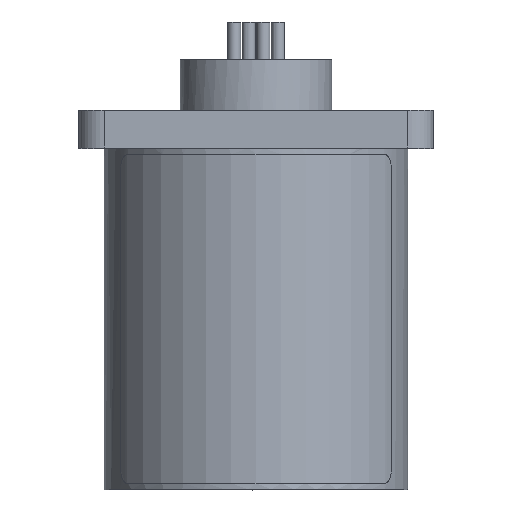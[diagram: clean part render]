
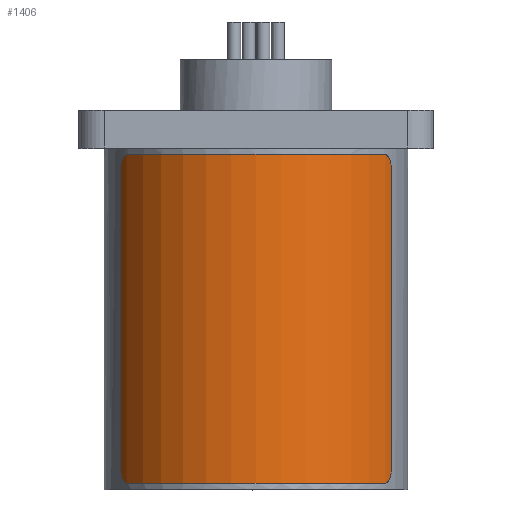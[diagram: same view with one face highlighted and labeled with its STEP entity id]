
A CAD part, top view. The second image highlights one B-rep face of the part: STEP entity #1406.
In plain terms, the highlighted cylindrical face has radius 12.1 mm (diameter 24.2 mm), a partial arc.
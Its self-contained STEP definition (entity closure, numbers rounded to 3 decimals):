
#181=B_SPLINE_CURVE_WITH_KNOTS('',3,(#6909,#6910,#6911,#6912,#6913,#6914,
#6915,#6916,#6917,#6918,#6919,#6920,#6921,#6922,#6923,#6924),
 .UNSPECIFIED.,.F.,.F.,(4,3,3,3,3,4),(0.,0.215,0.429,
0.644,0.858,1.),.UNSPECIFIED.);
#182=B_SPLINE_CURVE_WITH_KNOTS('',3,(#6925,#6926,#6927,#6928,#6929,#6930,
#6931,#6932,#6933,#6934,#6935,#6936,#6937,#6938,#6939,#6940),
 .UNSPECIFIED.,.F.,.F.,(4,3,3,3,3,4),(0.,0.215,0.43,
0.644,0.859,1.),.UNSPECIFIED.);
#183=B_SPLINE_CURVE_WITH_KNOTS('',3,(#6944,#6945,#6946,#6947,#6948,#6949,
#6950,#6951,#6952,#6953,#6954,#6955,#6956,#6957,#6958,#6959),
 .UNSPECIFIED.,.F.,.F.,(4,3,3,3,3,4),(0.,0.215,0.429,
0.644,0.858,1.),.UNSPECIFIED.);
#184=B_SPLINE_CURVE_WITH_KNOTS('',3,(#6963,#6964,#6965,#6966,#6967,#6968,
#6969,#6970,#6971,#6972,#6973,#6974,#6975,#6976,#6977,#6978),
 .UNSPECIFIED.,.F.,.F.,(4,3,3,3,3,4),(0.,0.215,0.43,
0.644,0.859,1.),.UNSPECIFIED.);
#295=FACE_OUTER_BOUND('',#1953,.T.);
#633=LINE('',#6897,#1011);
#637=LINE('',#6961,#1015);
#1011=VECTOR('',#5624,1.);
#1015=VECTOR('',#5634,1.);
#1282=CYLINDRICAL_SURFACE('',#4810,12.1);
#1406=ADVANCED_FACE('',(#295),#1282,.T.);
#1953=EDGE_LOOP('',(#2662,#2663,#2664,#2665,#2666,#2667,#2668,#2669));
#2662=ORIENTED_EDGE('',*,*,#4090,.F.);
#2663=ORIENTED_EDGE('',*,*,#4091,.T.);
#2664=ORIENTED_EDGE('',*,*,#4086,.F.);
#2665=ORIENTED_EDGE('',*,*,#4092,.T.);
#2666=ORIENTED_EDGE('',*,*,#4093,.T.);
#2667=ORIENTED_EDGE('',*,*,#4094,.T.);
#2668=ORIENTED_EDGE('',*,*,#4095,.T.);
#2669=ORIENTED_EDGE('',*,*,#4096,.T.);
#3576=VERTEX_POINT('',#6898);
#3577=VERTEX_POINT('',#6899);
#3580=VERTEX_POINT('',#6907);
#3581=VERTEX_POINT('',#6908);
#3582=VERTEX_POINT('',#6941);
#3583=VERTEX_POINT('',#6943);
#3584=VERTEX_POINT('',#6960);
#3585=VERTEX_POINT('',#6962);
#4086=EDGE_CURVE('',#3576,#3577,#633,.T.);
#4090=EDGE_CURVE('',#3580,#3581,#4492,.T.);
#4091=EDGE_CURVE('',#3580,#3577,#181,.T.);
#4092=EDGE_CURVE('',#3576,#3582,#182,.T.);
#4093=EDGE_CURVE('',#3582,#3583,#4493,.T.);
#4094=EDGE_CURVE('',#3583,#3584,#183,.T.);
#4095=EDGE_CURVE('',#3584,#3585,#637,.T.);
#4096=EDGE_CURVE('',#3585,#3581,#184,.T.);
#4492=CIRCLE('',#4808,12.1);
#4493=CIRCLE('',#4809,12.1);
#4808=AXIS2_PLACEMENT_3D('',#6906,#5630,#5631);
#4809=AXIS2_PLACEMENT_3D('',#6942,#5632,#5633);
#4810=AXIS2_PLACEMENT_3D('',#6979,#5635,#5636);
#5624=DIRECTION('',(0.,-1.,0.));
#5630=DIRECTION('',(0.,-1.,0.));
#5631=DIRECTION('',(-1.,0.,0.));
#5632=DIRECTION('',(0.,-1.,0.));
#5633=DIRECTION('',(-1.,0.,0.));
#5634=DIRECTION('',(0.,-1.,0.));
#5635=DIRECTION('',(0.,-1.,0.));
#5636=DIRECTION('',(-1.,0.,0.));
#6897=CARTESIAN_POINT('',(10.691,26.5,5.667));
#6898=CARTESIAN_POINT('',(10.691,25.5,5.667));
#6899=CARTESIAN_POINT('',(10.691,1.5,5.667));
#6906=CARTESIAN_POINT('',(0.,0.5,0.));
#6907=CARTESIAN_POINT('',(10.186,0.5,6.532));
#6908=CARTESIAN_POINT('',(-10.186,0.5,6.532));
#6909=CARTESIAN_POINT('',(10.186,0.5,6.532));
#6910=CARTESIAN_POINT('',(10.246,0.5,6.437));
#6911=CARTESIAN_POINT('',(10.306,0.519,6.341));
#6912=CARTESIAN_POINT('',(10.361,0.556,6.251));
#6913=CARTESIAN_POINT('',(10.415,0.593,6.16));
#6914=CARTESIAN_POINT('',(10.466,0.649,6.073));
#6915=CARTESIAN_POINT('',(10.509,0.718,5.997));
#6916=CARTESIAN_POINT('',(10.553,0.788,5.921));
#6917=CARTESIAN_POINT('',(10.59,0.874,5.854));
#6918=CARTESIAN_POINT('',(10.618,0.968,5.802));
#6919=CARTESIAN_POINT('',(10.647,1.063,5.75));
#6920=CARTESIAN_POINT('',(10.667,1.169,5.711));
#6921=CARTESIAN_POINT('',(10.679,1.278,5.689));
#6922=CARTESIAN_POINT('',(10.687,1.351,5.675));
#6923=CARTESIAN_POINT('',(10.691,1.426,5.667));
#6924=CARTESIAN_POINT('',(10.691,1.5,5.667));
#6925=CARTESIAN_POINT('',(10.691,25.5,5.667));
#6926=CARTESIAN_POINT('',(10.691,25.612,5.667));
#6927=CARTESIAN_POINT('',(10.682,25.725,5.685));
#6928=CARTESIAN_POINT('',(10.664,25.831,5.717));
#6929=CARTESIAN_POINT('',(10.647,25.937,5.75));
#6930=CARTESIAN_POINT('',(10.62,26.037,5.799));
#6931=CARTESIAN_POINT('',(10.586,26.125,5.86));
#6932=CARTESIAN_POINT('',(10.552,26.212,5.921));
#6933=CARTESIAN_POINT('',(10.51,26.289,5.996));
#6934=CARTESIAN_POINT('',(10.463,26.348,6.078));
#6935=CARTESIAN_POINT('',(10.415,26.407,6.16));
#6936=CARTESIAN_POINT('',(10.361,26.451,6.251));
#6937=CARTESIAN_POINT('',(10.303,26.475,6.344));
#6938=CARTESIAN_POINT('',(10.265,26.492,6.406));
#6939=CARTESIAN_POINT('',(10.226,26.5,6.469));
#6940=CARTESIAN_POINT('',(10.186,26.5,6.532));
#6941=CARTESIAN_POINT('',(10.186,26.5,6.532));
#6942=CARTESIAN_POINT('',(0.,26.5,0.));
#6943=CARTESIAN_POINT('',(-10.186,26.5,6.532));
#6944=CARTESIAN_POINT('',(-10.186,26.5,6.532));
#6945=CARTESIAN_POINT('',(-10.246,26.5,6.437));
#6946=CARTESIAN_POINT('',(-10.306,26.481,6.341));
#6947=CARTESIAN_POINT('',(-10.361,26.444,6.251));
#6948=CARTESIAN_POINT('',(-10.415,26.407,6.16));
#6949=CARTESIAN_POINT('',(-10.466,26.351,6.073));
#6950=CARTESIAN_POINT('',(-10.509,26.282,5.997));
#6951=CARTESIAN_POINT('',(-10.553,26.212,5.921));
#6952=CARTESIAN_POINT('',(-10.59,26.126,5.854));
#6953=CARTESIAN_POINT('',(-10.618,26.032,5.802));
#6954=CARTESIAN_POINT('',(-10.647,25.937,5.75));
#6955=CARTESIAN_POINT('',(-10.667,25.831,5.711));
#6956=CARTESIAN_POINT('',(-10.679,25.722,5.689));
#6957=CARTESIAN_POINT('',(-10.687,25.649,5.675));
#6958=CARTESIAN_POINT('',(-10.691,25.574,5.667));
#6959=CARTESIAN_POINT('',(-10.691,25.5,5.667));
#6960=CARTESIAN_POINT('',(-10.691,25.5,5.667));
#6961=CARTESIAN_POINT('',(-10.691,26.5,5.667));
#6962=CARTESIAN_POINT('',(-10.691,1.5,5.667));
#6963=CARTESIAN_POINT('',(-10.691,1.5,5.667));
#6964=CARTESIAN_POINT('',(-10.691,1.388,5.667));
#6965=CARTESIAN_POINT('',(-10.682,1.275,5.685));
#6966=CARTESIAN_POINT('',(-10.664,1.169,5.717));
#6967=CARTESIAN_POINT('',(-10.647,1.063,5.75));
#6968=CARTESIAN_POINT('',(-10.62,0.963,5.799));
#6969=CARTESIAN_POINT('',(-10.586,0.875,5.86));
#6970=CARTESIAN_POINT('',(-10.552,0.788,5.921));
#6971=CARTESIAN_POINT('',(-10.51,0.711,5.996));
#6972=CARTESIAN_POINT('',(-10.463,0.652,6.078));
#6973=CARTESIAN_POINT('',(-10.415,0.593,6.16));
#6974=CARTESIAN_POINT('',(-10.361,0.549,6.251));
#6975=CARTESIAN_POINT('',(-10.303,0.525,6.344));
#6976=CARTESIAN_POINT('',(-10.265,0.508,6.406));
#6977=CARTESIAN_POINT('',(-10.226,0.5,6.469));
#6978=CARTESIAN_POINT('',(-10.186,0.5,6.532));
#6979=CARTESIAN_POINT('',(0.,26.5,0.));
